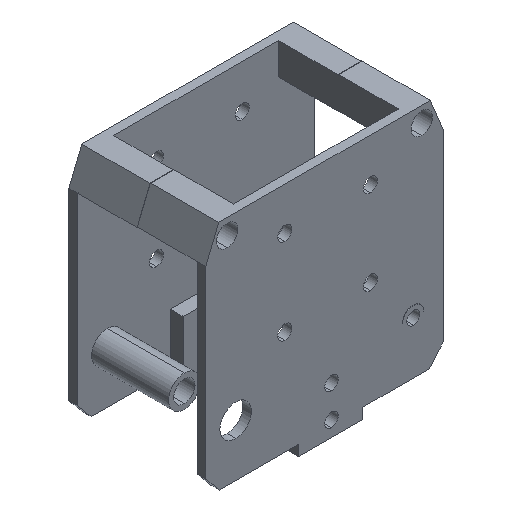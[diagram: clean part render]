
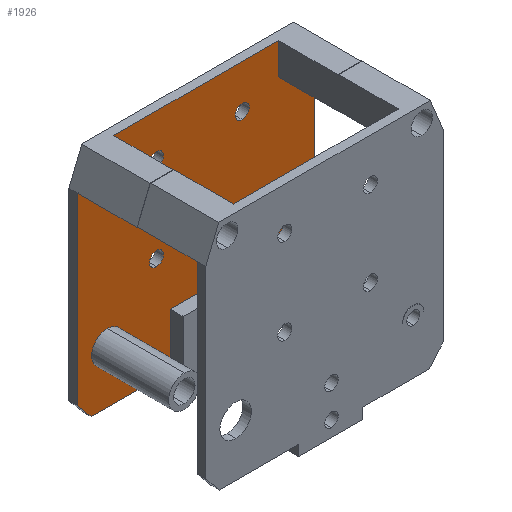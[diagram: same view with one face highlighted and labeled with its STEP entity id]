
A CAD part, isometric view. The second image highlights one B-rep face of the part: STEP entity #1926.
In plain terms, the highlighted free-form (B-spline) face has degree [1, 1] with [2, 2] control points.
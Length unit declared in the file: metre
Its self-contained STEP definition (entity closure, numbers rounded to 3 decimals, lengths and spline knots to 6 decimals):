
#52=B_SPLINE_SURFACE_WITH_KNOTS('',1,1,((#3424,#3425),(#3426,#3427)),
 .PLANE_SURF.,.F.,.F.,.F.,(2,2),(2,2),(0.,1.),(0.,1.),.UNSPECIFIED.);
#132=LINE('',#3224,#257);
#142=LINE('',#3256,#267);
#155=LINE('',#3341,#280);
#158=LINE('',#3350,#283);
#160=LINE('',#3357,#285);
#162=LINE('',#3363,#287);
#165=LINE('',#3371,#290);
#168=LINE('',#3380,#293);
#170=LINE('',#3396,#295);
#171=LINE('',#3428,#296);
#172=LINE('',#3430,#297);
#173=LINE('',#3432,#298);
#174=LINE('',#3433,#299);
#175=LINE('',#3434,#300);
#257=VECTOR('',#2343,1.);
#267=VECTOR('',#2353,1.);
#280=VECTOR('',#2376,1.);
#283=VECTOR('',#2379,1.);
#285=VECTOR('',#2381,1.);
#287=VECTOR('',#2383,1.);
#290=VECTOR('',#2386,1.);
#293=VECTOR('',#2389,1.);
#295=VECTOR('',#2393,1.);
#296=VECTOR('',#2400,1.);
#297=VECTOR('',#2401,1.);
#298=VECTOR('',#2402,1.);
#299=VECTOR('',#2403,1.);
#300=VECTOR('',#2404,1.);
#819=ORIENTED_EDGE('',*,*,#962,.F.);
#820=ORIENTED_EDGE('',*,*,#1194,.F.);
#821=ORIENTED_EDGE('',*,*,#966,.F.);
#822=ORIENTED_EDGE('',*,*,#1193,.F.);
#823=ORIENTED_EDGE('',*,*,#970,.F.);
#824=ORIENTED_EDGE('',*,*,#1192,.F.);
#825=ORIENTED_EDGE('',*,*,#1195,.F.);
#826=ORIENTED_EDGE('',*,*,#1196,.F.);
#827=ORIENTED_EDGE('',*,*,#1197,.F.);
#828=ORIENTED_EDGE('',*,*,#1175,.F.);
#829=ORIENTED_EDGE('',*,*,#1178,.T.);
#830=ORIENTED_EDGE('',*,*,#1180,.T.);
#831=ORIENTED_EDGE('',*,*,#1198,.T.);
#832=ORIENTED_EDGE('',*,*,#1147,.T.);
#833=ORIENTED_EDGE('',*,*,#1182,.T.);
#834=ORIENTED_EDGE('',*,*,#1157,.F.);
#835=ORIENTED_EDGE('',*,*,#1199,.F.);
#836=ORIENTED_EDGE('',*,*,#1185,.F.);
#837=ORIENTED_EDGE('',*,*,#1188,.T.);
#838=ORIENTED_EDGE('',*,*,#1191,.T.);
#839=ORIENTED_EDGE('',*,*,#1037,.F.);
#840=ORIENTED_EDGE('',*,*,#1028,.F.);
#841=ORIENTED_EDGE('',*,*,#974,.F.);
#842=ORIENTED_EDGE('',*,*,#1189,.F.);
#843=ORIENTED_EDGE('',*,*,#940,.F.);
#844=ORIENTED_EDGE('',*,*,#1200,.F.);
#940=EDGE_CURVE('',#1225,#1226,#1407,.T.);
#962=EDGE_CURVE('',#1247,#1248,#1419,.T.);
#966=EDGE_CURVE('',#1251,#1252,#1421,.T.);
#970=EDGE_CURVE('',#1255,#1256,#1423,.T.);
#974=EDGE_CURVE('',#1259,#1260,#1425,.T.);
#1028=EDGE_CURVE('',#1313,#1314,#1453,.T.);
#1037=EDGE_CURVE('',#1314,#1313,#1459,.T.);
#1147=EDGE_CURVE('',#1375,#1374,#132,.T.);
#1157=EDGE_CURVE('',#1380,#1381,#142,.T.);
#1175=EDGE_CURVE('',#1387,#1388,#155,.T.);
#1178=EDGE_CURVE('',#1387,#1389,#158,.T.);
#1180=EDGE_CURVE('',#1389,#1390,#160,.T.);
#1182=EDGE_CURVE('',#1374,#1381,#162,.T.);
#1185=EDGE_CURVE('',#1391,#1392,#165,.T.);
#1188=EDGE_CURVE('',#1391,#1393,#168,.T.);
#1189=EDGE_CURVE('',#1260,#1259,#1508,.T.);
#1191=EDGE_CURVE('',#1393,#1394,#170,.T.);
#1192=EDGE_CURVE('',#1256,#1255,#1509,.T.);
#1193=EDGE_CURVE('',#1252,#1251,#1510,.T.);
#1194=EDGE_CURVE('',#1248,#1247,#1511,.T.);
#1195=EDGE_CURVE('',#1395,#1394,#171,.T.);
#1196=EDGE_CURVE('',#1396,#1395,#172,.T.);
#1197=EDGE_CURVE('',#1388,#1396,#173,.T.);
#1198=EDGE_CURVE('',#1390,#1375,#174,.T.);
#1199=EDGE_CURVE('',#1392,#1380,#175,.T.);
#1200=EDGE_CURVE('',#1226,#1225,#1512,.T.);
#1225=VERTEX_POINT('',#2478);
#1226=VERTEX_POINT('',#2479);
#1247=VERTEX_POINT('',#2572);
#1248=VERTEX_POINT('',#2573);
#1251=VERTEX_POINT('',#2590);
#1252=VERTEX_POINT('',#2591);
#1255=VERTEX_POINT('',#2608);
#1256=VERTEX_POINT('',#2609);
#1259=VERTEX_POINT('',#2626);
#1260=VERTEX_POINT('',#2627);
#1313=VERTEX_POINT('',#2854);
#1314=VERTEX_POINT('',#2856);
#1374=VERTEX_POINT('',#3223);
#1375=VERTEX_POINT('',#3225);
#1380=VERTEX_POINT('',#3255);
#1381=VERTEX_POINT('',#3257);
#1387=VERTEX_POINT('',#3340);
#1388=VERTEX_POINT('',#3342);
#1389=VERTEX_POINT('',#3349);
#1390=VERTEX_POINT('',#3356);
#1391=VERTEX_POINT('',#3370);
#1392=VERTEX_POINT('',#3372);
#1393=VERTEX_POINT('',#3379);
#1394=VERTEX_POINT('',#3395);
#1395=VERTEX_POINT('',#3429);
#1396=VERTEX_POINT('',#3431);
#1407=CIRCLE('',#1962,0.0025);
#1419=CIRCLE('',#1974,0.001642);
#1421=CIRCLE('',#1976,0.001642);
#1423=CIRCLE('',#1978,0.001642);
#1425=CIRCLE('',#1980,0.001642);
#1453=CIRCLE('',#2008,0.003683);
#1459=CIRCLE('',#2014,0.003683);
#1508=CIRCLE('',#2063,0.001642);
#1509=CIRCLE('',#2064,0.001642);
#1510=CIRCLE('',#2065,0.001642);
#1511=CIRCLE('',#2066,0.001642);
#1512=CIRCLE('',#2067,0.0025);
#1629=EDGE_LOOP('',(#819,#820));
#1630=EDGE_LOOP('',(#821,#822));
#1631=EDGE_LOOP('',(#823,#824));
#1632=EDGE_LOOP('',(#825,#826,#827,#828,#829,#830,#831,#832,#833,#834,#835,
#836,#837,#838));
#1633=EDGE_LOOP('',(#839,#840));
#1634=EDGE_LOOP('',(#841,#842));
#1635=EDGE_LOOP('',(#843,#844));
#1769=FACE_BOUND('',#1629,.T.);
#1770=FACE_BOUND('',#1630,.T.);
#1771=FACE_BOUND('',#1631,.T.);
#1772=FACE_BOUND('',#1632,.T.);
#1773=FACE_BOUND('',#1633,.T.);
#1774=FACE_BOUND('',#1634,.T.);
#1775=FACE_BOUND('',#1635,.T.);
#1926=ADVANCED_FACE('',(#1769,#1770,#1771,#1772,#1773,#1774,#1775),#52,
 .T.);
#1962=AXIS2_PLACEMENT_3D('',#2477,#2084,#2085);
#1974=AXIS2_PLACEMENT_3D('',#2571,#2108,#2109);
#1976=AXIS2_PLACEMENT_3D('',#2589,#2112,#2113);
#1978=AXIS2_PLACEMENT_3D('',#2607,#2116,#2117);
#1980=AXIS2_PLACEMENT_3D('',#2625,#2120,#2121);
#2008=AXIS2_PLACEMENT_3D('',#2855,#2177,#2178);
#2014=AXIS2_PLACEMENT_3D('',#2896,#2189,#2190);
#2063=AXIS2_PLACEMENT_3D('',#3389,#2390,#2391);
#2064=AXIS2_PLACEMENT_3D('',#3405,#2394,#2395);
#2065=AXIS2_PLACEMENT_3D('',#3414,#2396,#2397);
#2066=AXIS2_PLACEMENT_3D('',#3423,#2398,#2399);
#2067=AXIS2_PLACEMENT_3D('',#3435,#2405,#2406);
#2084=DIRECTION('',(0.,-1.,0.));
#2085=DIRECTION('',(0.,0.,-1.));
#2108=DIRECTION('',(0.,-1.,0.));
#2109=DIRECTION('',(0.,0.,-1.));
#2112=DIRECTION('',(0.,-1.,0.));
#2113=DIRECTION('',(0.,0.,-1.));
#2116=DIRECTION('',(0.,-1.,0.));
#2117=DIRECTION('',(0.,0.,-1.));
#2120=DIRECTION('',(0.,-1.,0.));
#2121=DIRECTION('',(0.,0.,-1.));
#2177=DIRECTION('',(0.,-1.,0.));
#2178=DIRECTION('',(0.,0.,-1.));
#2189=DIRECTION('',(0.,-1.,0.));
#2190=DIRECTION('',(0.,0.,-1.));
#2343=DIRECTION('',(0.,0.,1.));
#2353=DIRECTION('',(0.,0.,1.));
#2376=DIRECTION('',(-1.,0.,0.));
#2379=DIRECTION('',(0.643,0.,0.766));
#2381=DIRECTION('',(0.,0.,1.));
#2383=DIRECTION('',(-1.,0.,0.));
#2386=DIRECTION('',(0.,0.,1.));
#2389=DIRECTION('',(0.643,0.,-0.766));
#2390=DIRECTION('',(0.,-1.,0.));
#2391=DIRECTION('',(0.,0.,-1.));
#2393=DIRECTION('',(1.,0.,0.));
#2394=DIRECTION('',(0.,-1.,0.));
#2395=DIRECTION('',(0.,0.,-1.));
#2396=DIRECTION('',(0.,-1.,0.));
#2397=DIRECTION('',(0.,0.,-1.));
#2398=DIRECTION('',(0.,-1.,0.));
#2399=DIRECTION('',(0.,0.,-1.));
#2400=DIRECTION('',(0.,0.,-1.));
#2401=DIRECTION('',(-1.,0.,0.));
#2402=DIRECTION('',(0.,0.,1.));
#2403=DIRECTION('',(-1.,0.,0.));
#2404=DIRECTION('',(1.,0.,0.));
#2405=DIRECTION('',(0.,-1.,0.));
#2406=DIRECTION('',(0.,0.,-1.));
#2477=CARTESIAN_POINT('',(0.071405,-0.002,-0.048898));
#2478=CARTESIAN_POINT('',(0.071405,-0.002,-0.046398));
#2479=CARTESIAN_POINT('',(0.071405,-0.002,-0.051398));
#2571=CARTESIAN_POINT('',(0.041405,-0.002,-0.036803));
#2572=CARTESIAN_POINT('',(0.041405,-0.002,-0.035161));
#2573=CARTESIAN_POINT('',(0.041405,-0.002,-0.038446));
#2589=CARTESIAN_POINT('',(0.061404,-0.002,-0.036809));
#2590=CARTESIAN_POINT('',(0.061404,-0.002,-0.035167));
#2591=CARTESIAN_POINT('',(0.061404,-0.002,-0.038452));
#2607=CARTESIAN_POINT('',(0.061404,-0.002,-0.016996));
#2608=CARTESIAN_POINT('',(0.061404,-0.002,-0.015354));
#2609=CARTESIAN_POINT('',(0.061404,-0.002,-0.018638));
#2625=CARTESIAN_POINT('',(0.041405,-0.002,-0.016803));
#2626=CARTESIAN_POINT('',(0.041405,-0.002,-0.015161));
#2627=CARTESIAN_POINT('',(0.041405,-0.002,-0.018446));
#2854=CARTESIAN_POINT('',(0.029905,-0.002,-0.052581));
#2855=CARTESIAN_POINT('',(0.029905,-0.002,-0.048898));
#2856=CARTESIAN_POINT('',(0.029905,-0.002,-0.045214));
#2896=CARTESIAN_POINT('',(0.029905,-0.002,-0.048898));
#3223=CARTESIAN_POINT('',(0.069905,-0.002,-0.006898));
#3224=CARTESIAN_POINT('',(0.069905,-0.002,-0.010597));
#3225=CARTESIAN_POINT('',(0.069905,-0.002,-0.014297));
#3255=CARTESIAN_POINT('',(0.031405,-0.002,-0.014297));
#3256=CARTESIAN_POINT('',(0.031405,-0.002,-0.010597));
#3257=CARTESIAN_POINT('',(0.031405,-0.002,-0.006898));
#3340=CARTESIAN_POINT('',(0.075191,-0.002,-0.061127));
#3341=CARTESIAN_POINT('',(0.067405,-0.002,-0.061127));
#3342=CARTESIAN_POINT('',(0.059619,-0.002,-0.061127));
#3349=CARTESIAN_POINT('',(0.078405,-0.002,-0.057297));
#3350=CARTESIAN_POINT('',(0.076798,-0.002,-0.059212));
#3356=CARTESIAN_POINT('',(0.078405,-0.002,-0.014297));
#3357=CARTESIAN_POINT('',(0.078405,-0.002,-0.035797));
#3363=CARTESIAN_POINT('',(0.050655,-0.002,-0.006898));
#3370=CARTESIAN_POINT('',(0.022905,-0.002,-0.057297));
#3371=CARTESIAN_POINT('',(0.022905,-0.002,-0.035797));
#3372=CARTESIAN_POINT('',(0.022905,-0.002,-0.014297));
#3379=CARTESIAN_POINT('',(0.026119,-0.002,-0.061127));
#3380=CARTESIAN_POINT('',(0.024512,-0.002,-0.059212));
#3389=CARTESIAN_POINT('',(0.041405,-0.002,-0.016803));
#3395=CARTESIAN_POINT('',(0.044619,-0.002,-0.061127));
#3396=CARTESIAN_POINT('',(0.035369,-0.002,-0.061127));
#3405=CARTESIAN_POINT('',(0.061404,-0.002,-0.016996));
#3414=CARTESIAN_POINT('',(0.061404,-0.002,-0.036809));
#3423=CARTESIAN_POINT('',(0.041405,-0.002,-0.036803));
#3424=CARTESIAN_POINT('',(0.02013,-0.002,-0.063839));
#3425=CARTESIAN_POINT('',(0.02013,-0.002,-0.004186));
#3426=CARTESIAN_POINT('',(0.08118,-0.002,-0.063839));
#3427=CARTESIAN_POINT('',(0.08118,-0.002,-0.004186));
#3428=CARTESIAN_POINT('',(0.044619,-0.002,-0.054877));
#3429=CARTESIAN_POINT('',(0.044619,-0.002,-0.048627));
#3430=CARTESIAN_POINT('',(0.052119,-0.002,-0.048627));
#3431=CARTESIAN_POINT('',(0.059619,-0.002,-0.048627));
#3432=CARTESIAN_POINT('',(0.059619,-0.002,-0.054877));
#3433=CARTESIAN_POINT('',(0.074155,-0.002,-0.014297));
#3434=CARTESIAN_POINT('',(0.027155,-0.002,-0.014297));
#3435=CARTESIAN_POINT('',(0.071405,-0.002,-0.048898));
